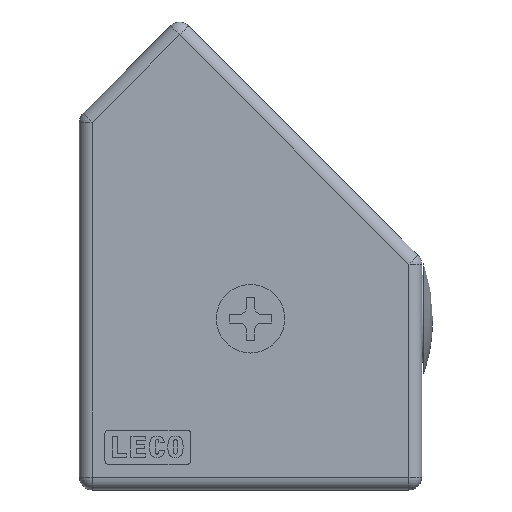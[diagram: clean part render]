
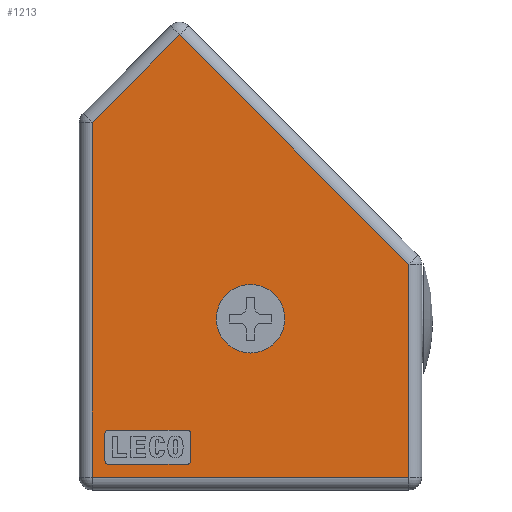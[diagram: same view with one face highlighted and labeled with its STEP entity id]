
A CAD part, left-side view. The second image highlights one B-rep face of the part: STEP entity #1213.
In plain terms, the highlighted planar face has unit normal (-1, 0, 0) as drawn and (0, 0, 1) by its records, which use the part's own axes.
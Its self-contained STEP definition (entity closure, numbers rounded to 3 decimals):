
#1213=ADVANCED_FACE('',(#2643,#2644,#2645),#2646,.F.);
#2643=FACE_BOUND('',#6630,.T.);
#2644=FACE_BOUND('',#6631,.T.);
#2645=FACE_OUTER_BOUND('',#6632,.T.);
#2646=PLANE('',#6633);
#6630=EDGE_LOOP('',(#11919,#11920,#11921,#11922,#11923,#11924,#11925,#11926));
#6631=EDGE_LOOP('',(#11927));
#6632=EDGE_LOOP('',(#11928,#11929,#11930,#11931,#11932));
#6633=AXIS2_PLACEMENT_3D('',#11933,#11934,#11935);
#11919=ORIENTED_EDGE('',*,*,#15601,.F.);
#11920=ORIENTED_EDGE('',*,*,#14721,.F.);
#11921=ORIENTED_EDGE('',*,*,#15602,.F.);
#11922=ORIENTED_EDGE('',*,*,#15603,.F.);
#11923=ORIENTED_EDGE('',*,*,#15604,.F.);
#11924=ORIENTED_EDGE('',*,*,#15605,.F.);
#11925=ORIENTED_EDGE('',*,*,#14398,.F.);
#11926=ORIENTED_EDGE('',*,*,#15606,.F.);
#11927=ORIENTED_EDGE('',*,*,#14911,.F.);
#11928=ORIENTED_EDGE('',*,*,#15607,.T.);
#11929=ORIENTED_EDGE('',*,*,#14862,.F.);
#11930=ORIENTED_EDGE('',*,*,#15054,.F.);
#11931=ORIENTED_EDGE('',*,*,#14377,.F.);
#11932=ORIENTED_EDGE('',*,*,#15608,.F.);
#11933=CARTESIAN_POINT('',(38.5,56.97,13.));
#11934=DIRECTION('',(0.0,0.0,-1.0));
#11935=DIRECTION('',(0.0,1.0,0.0));
#14377=EDGE_CURVE('',#16406,#16407,#16408,.T.);
#14398=EDGE_CURVE('',#16442,#16443,#16444,.T.);
#14721=EDGE_CURVE('',#16999,#17000,#17001,.T.);
#14862=EDGE_CURVE('',#17226,#17228,#17229,.T.);
#14911=EDGE_CURVE('',#17303,#17303,#17304,.T.);
#15054=EDGE_CURVE('',#16407,#17226,#17537,.T.);
#15601=EDGE_CURVE('',#17000,#18323,#18324,.T.);
#15602=EDGE_CURVE('',#18325,#16999,#18326,.T.);
#15603=EDGE_CURVE('',#18327,#18325,#18328,.T.);
#15604=EDGE_CURVE('',#18329,#18327,#18330,.T.);
#15605=EDGE_CURVE('',#16443,#18329,#18331,.T.);
#15606=EDGE_CURVE('',#18323,#16442,#18332,.T.);
#15607=EDGE_CURVE('',#18333,#17228,#18334,.T.);
#15608=EDGE_CURVE('',#18333,#16406,#18335,.T.);
#16406=VERTEX_POINT('',#19570);
#16407=VERTEX_POINT('',#19571);
#16408=LINE('',#19572,#19573);
#16442=VERTEX_POINT('',#19615);
#16443=VERTEX_POINT('',#19616);
#16444=CIRCLE('',#19617,0.4);
#16999=VERTEX_POINT('',#20626);
#17000=VERTEX_POINT('',#20627);
#17001=LINE('',#20628,#20629);
#17226=VERTEX_POINT('',#20977);
#17228=VERTEX_POINT('',#20979);
#17229=LINE('',#20980,#20981);
#17303=VERTEX_POINT('',#21161);
#17304=CIRCLE('',#21162,4.0);
#17537=LINE('',#21626,#21627);
#18323=VERTEX_POINT('',#23098);
#18324=CIRCLE('',#23099,0.4);
#18325=VERTEX_POINT('',#23100);
#18326=CIRCLE('',#23101,0.4);
#18327=VERTEX_POINT('',#23102);
#18328=LINE('',#23103,#23104);
#18329=VERTEX_POINT('',#23105);
#18330=CIRCLE('',#23106,0.4);
#18331=LINE('',#23107,#23108);
#18332=LINE('',#23109,#23110);
#18333=VERTEX_POINT('',#23111);
#18334=LINE('',#23112,#23113);
#18335=LINE('',#23114,#23115);
#19570=CARTESIAN_POINT('',(11.716,53.163,13.));
#19571=CARTESIAN_POINT('',(38.5,26.379,13.));
#19572=CARTESIAN_POINT('',(23.204,41.675,13.));
#19573=VECTOR('',#24523,1.0);
#19615=CARTESIAN_POINT('',(12.6,3.,13.));
#19616=CARTESIAN_POINT('',(13.,3.4,13.));
#19617=AXIS2_PLACEMENT_3D('',#24553,#24554,#24555);
#20626=CARTESIAN_POINT('',(3.,6.6,13.));
#20627=CARTESIAN_POINT('',(3.,3.4,13.));
#20628=CARTESIAN_POINT('',(3.,6.6,13.));
#20629=VECTOR('',#25046,1.0);
#20977=CARTESIAN_POINT('',(38.5,1.5,13.));
#20979=CARTESIAN_POINT('',(1.5,1.5,13.));
#20980=CARTESIAN_POINT('',(44.836,1.5,13.));
#20981=VECTOR('',#25210,1.0);
#21161=CARTESIAN_POINT('',(20.,24.,13.));
#21162=AXIS2_PLACEMENT_3D('',#25275,#25276,#25277);
#21626=CARTESIAN_POINT('',(38.5,56.97,13.));
#21627=VECTOR('',#25479,1.0);
#23098=CARTESIAN_POINT('',(3.4,3.,13.));
#23099=AXIS2_PLACEMENT_3D('',#26159,#26160,#26161);
#23100=CARTESIAN_POINT('',(3.4,7.,13.));
#23101=AXIS2_PLACEMENT_3D('',#26162,#26163,#26164);
#23102=CARTESIAN_POINT('',(12.6,7.,13.));
#23103=CARTESIAN_POINT('',(12.6,7.,13.));
#23104=VECTOR('',#26165,1.0);
#23105=CARTESIAN_POINT('',(13.,6.6,13.));
#23106=AXIS2_PLACEMENT_3D('',#26166,#26167,#26168);
#23107=CARTESIAN_POINT('',(13.,3.4,13.));
#23108=VECTOR('',#26169,1.0);
#23109=CARTESIAN_POINT('',(3.4,3.,13.));
#23110=VECTOR('',#26170,1.0);
#23111=CARTESIAN_POINT('',(1.5,42.947,13.));
#23112=CARTESIAN_POINT('',(1.5,56.97,13.));
#23113=VECTOR('',#26171,1.0);
#23114=CARTESIAN_POINT('',(27.012,68.459,13.));
#23115=VECTOR('',#26172,1.0);
#24523=DIRECTION('',(0.707,-0.707,0.0));
#24553=CARTESIAN_POINT('',(12.6,3.4,13.));
#24554=DIRECTION('',(0.0,0.0,1.0));
#24555=DIRECTION('',(1.0,0.0,0.0));
#25046=DIRECTION('',(0.0,-1.0,0.0));
#25210=DIRECTION('',(-1.0,0.0,0.0));
#25275=CARTESIAN_POINT('',(20.,20.,13.));
#25276=DIRECTION('',(0.0,-0.0,1.0));
#25277=DIRECTION('',(0.0,1.0,0.0));
#25479=DIRECTION('',(0.0,-1.0,0.0));
#26159=CARTESIAN_POINT('',(3.4,3.4,13.));
#26160=DIRECTION('',(0.0,0.0,1.0));
#26161=DIRECTION('',(1.0,0.0,0.0));
#26162=CARTESIAN_POINT('',(3.4,6.6,13.));
#26163=DIRECTION('',(0.0,0.0,1.0));
#26164=DIRECTION('',(1.0,0.0,0.0));
#26165=DIRECTION('',(-1.0,0.0,0.0));
#26166=CARTESIAN_POINT('',(12.6,6.6,13.));
#26167=DIRECTION('',(0.0,0.0,1.0));
#26168=DIRECTION('',(1.0,0.0,0.0));
#26169=DIRECTION('',(0.0,1.0,0.0));
#26170=DIRECTION('',(1.0,0.0,0.0));
#26171=DIRECTION('',(0.0,-1.0,0.0));
#26172=DIRECTION('',(0.707,0.707,0.0));
